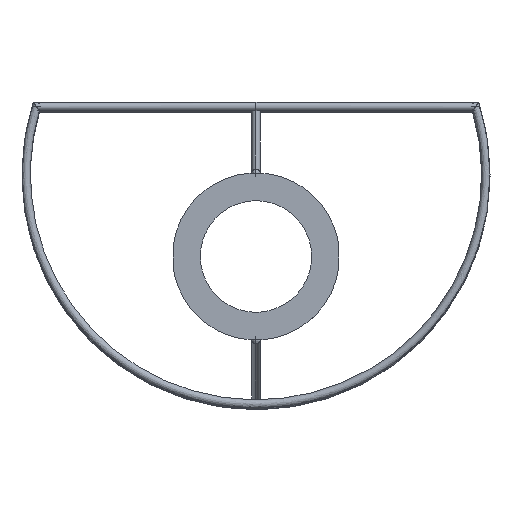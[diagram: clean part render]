
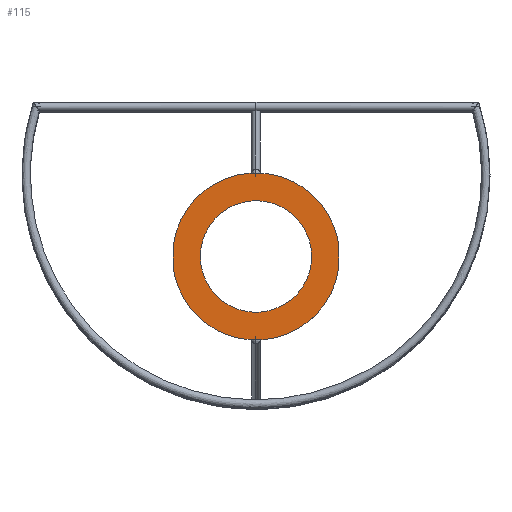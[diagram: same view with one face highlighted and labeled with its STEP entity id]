
A CAD part, top view. The second image highlights one B-rep face of the part: STEP entity #115.
In plain terms, the highlighted planar face has unit normal (0, 0, 1).
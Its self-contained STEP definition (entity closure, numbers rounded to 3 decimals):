
#54=FACE_BOUND('',#246,.T.);
#115=ADVANCED_FACE('',(#178,#54),#893,.T.);
#178=FACE_OUTER_BOUND('',#245,.T.);
#245=EDGE_LOOP('',(#503,#504,#505,#506));
#246=EDGE_LOOP('',(#507));
#503=ORIENTED_EDGE('',*,*,#653,.T.);
#504=ORIENTED_EDGE('',*,*,#648,.F.);
#505=ORIENTED_EDGE('',*,*,#652,.T.);
#506=ORIENTED_EDGE('',*,*,#650,.F.);
#507=ORIENTED_EDGE('',*,*,#645,.F.);
#645=EDGE_CURVE('',#875,#875,#784,.T.);
#648=EDGE_CURVE('',#873,#868,#787,.T.);
#650=EDGE_CURVE('',#867,#874,#789,.T.);
#652=EDGE_CURVE('',#873,#874,#693,.T.);
#653=EDGE_CURVE('',#867,#868,#694,.T.);
#693=B_SPLINE_CURVE_WITH_KNOTS('',1,(#2809,#2810),.UNSPECIFIED.,.F.,.F.,
(2,2),(84.581,87.817),.UNSPECIFIED.);
#694=B_SPLINE_CURVE_WITH_KNOTS('',1,(#2811,#2812),.UNSPECIFIED.,.F.,.F.,
(2,2),(-3.5,3.5),.UNSPECIFIED.);
#784=(
BOUNDED_CURVE()
B_SPLINE_CURVE(2,(#2769,#2770,#2771,#2772,#2773,#2774,#2775,#2776,#2777),
 .UNSPECIFIED.,.T.,.F.)
B_SPLINE_CURVE_WITH_KNOTS((3,2,2,2,3),(188.496,219.911,
251.327,282.743,314.159),.UNSPECIFIED.)
CURVE()
GEOMETRIC_REPRESENTATION_ITEM()
RATIONAL_B_SPLINE_CURVE((1.,0.707,1.,0.707,1.,0.707,
1.,0.707,1.))
REPRESENTATION_ITEM('')
);
#787=(
BOUNDED_CURVE()
B_SPLINE_CURVE(2,(#2789,#2790,#2791,#2792,#2793),.UNSPECIFIED.,.F.,.F.)
B_SPLINE_CURVE_WITH_KNOTS((3,2,3),(3.809,47.124,90.439),
 .UNSPECIFIED.)
CURVE()
GEOMETRIC_REPRESENTATION_ITEM()
RATIONAL_B_SPLINE_CURVE((1.,0.747,1.,0.747,1.))
REPRESENTATION_ITEM('')
);
#789=(
BOUNDED_CURVE()
B_SPLINE_CURVE(2,(#2799,#2800,#2801,#2802,#2803),.UNSPECIFIED.,.F.,.F.)
B_SPLINE_CURVE_WITH_KNOTS((3,2,3),(98.056,141.372,184.687),
 .UNSPECIFIED.)
CURVE()
GEOMETRIC_REPRESENTATION_ITEM()
RATIONAL_B_SPLINE_CURVE((1.,0.747,1.,0.747,1.))
REPRESENTATION_ITEM('')
);
#867=VERTEX_POINT('',#2751);
#868=VERTEX_POINT('',#2752);
#873=VERTEX_POINT('',#2757);
#874=VERTEX_POINT('',#2758);
#875=VERTEX_POINT('',#2759);
#893=PLANE('',#1047);
#1047=AXIS2_PLACEMENT_3D('',#2749,#1092,$);
#1092=DIRECTION('',(0.,0.,1.));
#2749=CARTESIAN_POINT('',(353.963,-17.411,52.));
#2751=CARTESIAN_POINT('',(361.668,-51.411,52.));
#2752=CARTESIAN_POINT('',(361.668,-58.411,52.));
#2757=CARTESIAN_POINT('',(421.258,-58.411,52.));
#2758=CARTESIAN_POINT('',(421.258,-51.411,52.));
#2759=CARTESIAN_POINT('',(411.463,-54.911,52.));
#2769=CARTESIAN_POINT('',(411.463,-54.911,52.));
#2770=CARTESIAN_POINT('',(411.463,-34.911,52.));
#2771=CARTESIAN_POINT('',(391.463,-34.911,52.));
#2772=CARTESIAN_POINT('',(371.463,-34.911,52.));
#2773=CARTESIAN_POINT('',(371.463,-54.911,52.));
#2774=CARTESIAN_POINT('',(371.463,-74.911,52.));
#2775=CARTESIAN_POINT('',(391.463,-74.911,52.));
#2776=CARTESIAN_POINT('',(411.463,-74.911,52.));
#2777=CARTESIAN_POINT('',(411.463,-54.911,52.));
#2789=CARTESIAN_POINT('',(421.258,-58.411,52.));
#2790=CARTESIAN_POINT('',(418.145,-84.911,52.));
#2791=CARTESIAN_POINT('',(391.463,-84.911,52.));
#2792=CARTESIAN_POINT('',(364.781,-84.911,52.));
#2793=CARTESIAN_POINT('',(361.668,-58.411,52.));
#2799=CARTESIAN_POINT('',(361.668,-51.411,52.));
#2800=CARTESIAN_POINT('',(364.781,-24.911,52.));
#2801=CARTESIAN_POINT('',(391.463,-24.911,52.));
#2802=CARTESIAN_POINT('',(418.145,-24.911,52.));
#2803=CARTESIAN_POINT('',(421.258,-51.411,52.));
#2809=CARTESIAN_POINT('',(421.258,-58.411,52.));
#2810=CARTESIAN_POINT('',(421.258,-51.411,52.));
#2811=CARTESIAN_POINT('',(361.668,-51.411,52.));
#2812=CARTESIAN_POINT('',(361.668,-58.411,52.));
